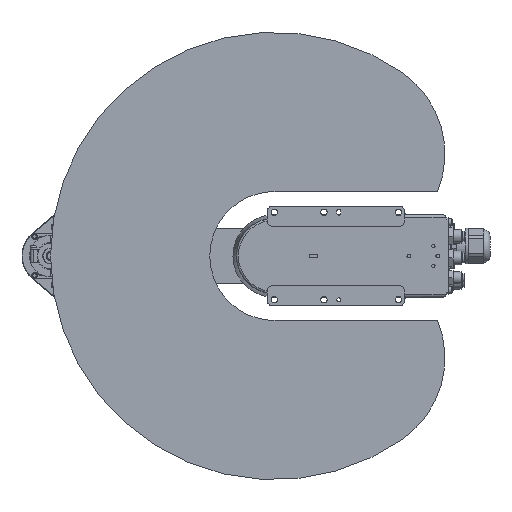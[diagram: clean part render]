
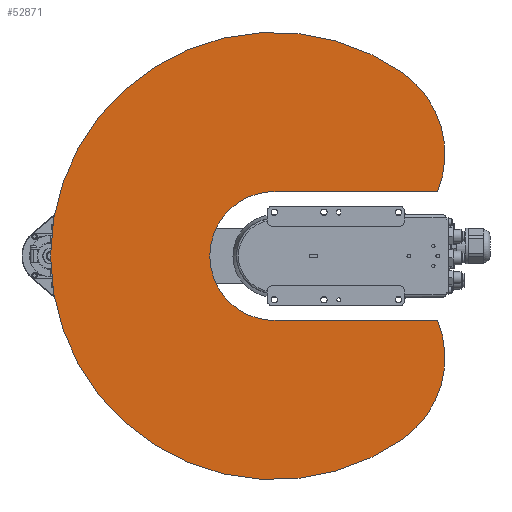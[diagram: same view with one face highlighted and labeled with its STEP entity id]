
A CAD part, front view. The second image highlights one B-rep face of the part: STEP entity #52871.
In plain terms, the highlighted planar face has unit normal (0, -1, 0).
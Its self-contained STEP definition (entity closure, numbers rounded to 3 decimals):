
#2578 = VERTEX_POINT ( 'NONE', #25800 ) ;
#3766 = DIRECTION ( 'NONE',  ( 0., 1., 0. ) ) ;
#3884 = VERTEX_POINT ( 'NONE', #40178 ) ;
#4545 = DIRECTION ( 'NONE',  ( 0., 1., 0. ) ) ;
#8713 = EDGE_CURVE ( 'NONE', #23592, #31956, #36877, .T. ) ;
#9068 = DIRECTION ( 'NONE',  ( 1., 0., 0. ) ) ;
#9088 = ORIENTED_EDGE ( 'NONE', *, *, #8713, .F. ) ;
#9848 = CARTESIAN_POINT ( 'NONE',  ( 102.394, 0., 71.697 ) ) ;
#10328 = CARTESIAN_POINT ( 'NONE',  ( 0., 0., 0. ) ) ;
#12342 = VECTOR ( 'NONE', #54540, 1000. ) ;
#12832 = DIRECTION ( 'NONE',  ( 1., 0., 0. ) ) ;
#13041 = EDGE_CURVE ( 'NONE', #61715, #32333, #63471, .T. ) ;
#14537 = AXIS2_PLACEMENT_3D ( 'NONE', #37771, #3766, #9068 ) ;
#14578 = CARTESIAN_POINT ( 'NONE',  ( 0., 0., 0. ) ) ;
#15104 = ORIENTED_EDGE ( 'NONE', *, *, #13041, .F. ) ;
#16241 = DIRECTION ( 'NONE',  ( 1., 0., 0. ) ) ;
#16350 = EDGE_CURVE ( 'NONE', #3884, #61715, #36036, .T. ) ;
#17497 = AXIS2_PLACEMENT_3D ( 'NONE', #43678, #48578, #59206 ) ;
#20420 = CARTESIAN_POINT ( 'NONE',  ( 183.717, 0., 129.897 ) ) ;
#20473 = EDGE_CURVE ( 'NONE', #50339, #64425, #24786, .T. ) ;
#22222 = VECTOR ( 'NONE', #22330, 1000. ) ;
#22330 = DIRECTION ( 'NONE',  ( 0., 0., -1. ) ) ;
#23592 = VERTEX_POINT ( 'NONE', #20420 ) ;
#23938 = AXIS2_PLACEMENT_3D ( 'NONE', #64603, #29877, #12832 ) ;
#24786 = CIRCLE ( 'NONE', #17497, 64.8 ) ;
#25190 = CARTESIAN_POINT ( 'NONE',  ( 0., 0., -64.8 ) ) ;
#25767 = DIRECTION ( 'NONE',  ( 0., 1., 0. ) ) ;
#25800 = CARTESIAN_POINT ( 'NONE',  ( 64.5, 0., 164.242 ) ) ;
#26545 = CARTESIAN_POINT ( 'NONE',  ( 64.5, 0., 6.228 ) ) ;
#28372 = CARTESIAN_POINT ( 'NONE',  ( -64.5, 0., 164.242 ) ) ;
#29877 = DIRECTION ( 'NONE',  ( 0., 1., 0. ) ) ;
#31098 = PLANE ( 'NONE',  #69824 ) ;
#31867 = ORIENTED_EDGE ( 'NONE', *, *, #16350, .F. ) ;
#31956 = VERTEX_POINT ( 'NONE', #63659 ) ;
#32333 = VERTEX_POINT ( 'NONE', #57493 ) ;
#33388 = DIRECTION ( 'NONE',  ( 1., 0., 0. ) ) ;
#34660 = EDGE_CURVE ( 'NONE', #64425, #32333, #68848, .T. ) ;
#36036 = CIRCLE ( 'NONE', #23938, 100.003 ) ;
#36877 = CIRCLE ( 'NONE', #68201, 225. ) ;
#37648 = DIRECTION ( 'NONE',  ( 1., 0., 0. ) ) ;
#37771 = CARTESIAN_POINT ( 'NONE',  ( 0., 0., 0. ) ) ;
#38382 = AXIS2_PLACEMENT_3D ( 'NONE', #14578, #59578, #37648 ) ;
#40178 = CARTESIAN_POINT ( 'NONE',  ( -183.717, 0., 129.897 ) ) ;
#40389 = EDGE_CURVE ( 'NONE', #2578, #23592, #49980, .T. ) ;
#41442 = ORIENTED_EDGE ( 'NONE', *, *, #67397, .F. ) ;
#41546 = AXIS2_PLACEMENT_3D ( 'NONE', #9848, #4545, #16241 ) ;
#43678 = CARTESIAN_POINT ( 'NONE',  ( 0., 0., 0. ) ) ;
#46785 = CIRCLE ( 'NONE', #38382, 225. ) ;
#48578 = DIRECTION ( 'NONE',  ( 0., 1., 0. ) ) ;
#49980 = CIRCLE ( 'NONE', #41546, 100.003 ) ;
#50339 = VERTEX_POINT ( 'NONE', #60453 ) ;
#50751 = DIRECTION ( 'NONE',  ( 0., 1., 0. ) ) ;
#51050 = EDGE_LOOP ( 'NONE', ( #9088, #51895, #74448, #61923, #66688, #15104, #31867, #41442 ) ) ;
#51895 = ORIENTED_EDGE ( 'NONE', *, *, #40389, .F. ) ;
#52871 = ADVANCED_FACE ( 'NONE', ( #65820 ), #31098, .F. ) ;
#54540 = DIRECTION ( 'NONE',  ( 0., 0., 1. ) ) ;
#55559 = CARTESIAN_POINT ( 'NONE',  ( -64.5, 0., 164.242 ) ) ;
#57493 = CARTESIAN_POINT ( 'NONE',  ( -64.5, 0., 6.228 ) ) ;
#59206 = DIRECTION ( 'NONE',  ( 1., 0., 0. ) ) ;
#59578 = DIRECTION ( 'NONE',  ( 0., 1., 0. ) ) ;
#59822 = CARTESIAN_POINT ( 'NONE',  ( 0., 0., 0. ) ) ;
#60453 = CARTESIAN_POINT ( 'NONE',  ( 64.5, 0., 6.228 ) ) ;
#61715 = VERTEX_POINT ( 'NONE', #55559 ) ;
#61923 = ORIENTED_EDGE ( 'NONE', *, *, #20473, .T. ) ;
#63471 = LINE ( 'NONE', #28372, #22222 ) ;
#63659 = CARTESIAN_POINT ( 'NONE',  ( 0., 0., -225. ) ) ;
#64425 = VERTEX_POINT ( 'NONE', #25190 ) ;
#64603 = CARTESIAN_POINT ( 'NONE',  ( -102.394, 0., 71.697 ) ) ;
#65820 = FACE_OUTER_BOUND ( 'NONE', #51050, .T. ) ;
#66225 = LINE ( 'NONE', #26545, #12342 ) ;
#66688 = ORIENTED_EDGE ( 'NONE', *, *, #34660, .T. ) ;
#67397 = EDGE_CURVE ( 'NONE', #31956, #3884, #46785, .T. ) ;
#68201 = AXIS2_PLACEMENT_3D ( 'NONE', #10328, #50751, #33388 ) ;
#68848 = CIRCLE ( 'NONE', #14537, 64.8 ) ;
#69824 = AXIS2_PLACEMENT_3D ( 'NONE', #59822, #25767, #71110 ) ;
#70894 = EDGE_CURVE ( 'NONE', #50339, #2578, #66225, .T. ) ;
#71110 = DIRECTION ( 'NONE',  ( 1., 0., 0. ) ) ;
#74448 = ORIENTED_EDGE ( 'NONE', *, *, #70894, .F. ) ;
